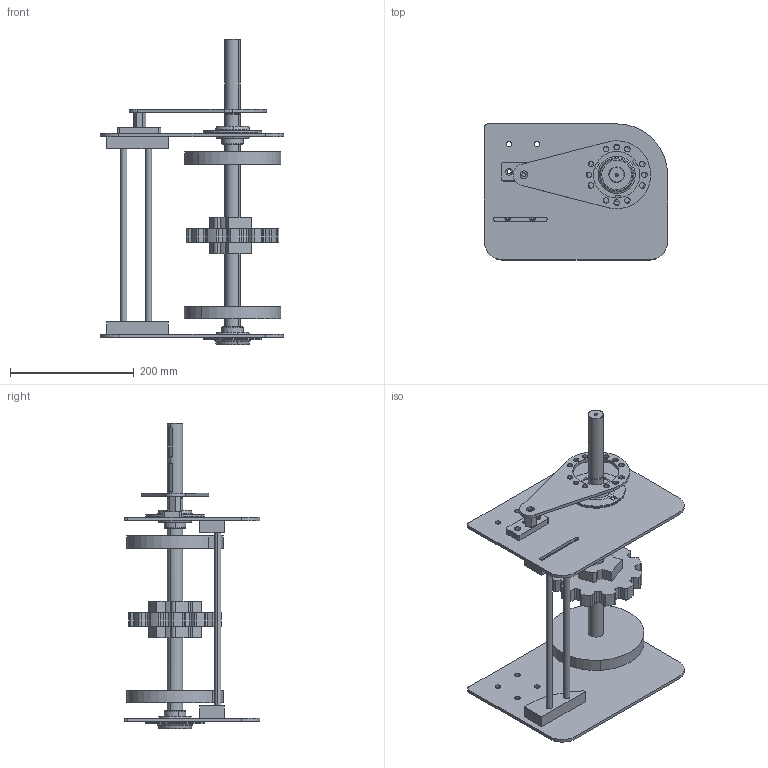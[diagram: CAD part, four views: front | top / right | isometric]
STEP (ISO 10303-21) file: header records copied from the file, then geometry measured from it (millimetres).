
FILE_DESCRIPTION (( 'STEP AP203' ), '1' );
FILE_NAME ('2000.1200.163.STEP', '2013-01-29T14:38:50', ( 'Alusic' ), ( 'Alusic' ), 'SwSTEP 2.0', 'SolidWorks 2011', '' );
FILE_SCHEMA (( 'CONFIG_CONTROL_DESIGN' ));
Length unit declared in the file: millimetre
Products named in the file (11): 2000.1200.163; 084.808.005-1; 084.802.027; 2000.001.013; 2000.1200.104; 2000.001.101; 2000.1200.102; 2000.001.015; 2000.001.014; RUOTE DI TRAINO NS882_NS882T12R25; SBPF 205
Assembly tree (15 placements, depth 2):
  2000.1200.163
    2000.001.013  x2
    2000.001.015  x2
    SBPF 205  x2
    2000.001.014  x2
    084.802.027
    2000.1200.102
    084.808.005-1
    RUOTE DI TRAINO NS882_NS882T12R25
    2000.1200.104  x2
    2000.001.101
Bounding box: 296.5 x 220 x 494.5 mm (x, y, z)
Volume: 2369704.8 mm3; surface area: 605999.4 mm2
Topology: 19 solids, 19 shells, 510 faces, 1363 edges, 884 vertices
Faces by surface type: cylinder 242, plane 194, cone 38, sphere 20, torus 16
Entity records: 13802 total; most frequent: CARTESIAN_POINT 2529, DIRECTION 2201, ORIENTED_EDGE 2012, EDGE_CURVE 1006, AXIS2_PLACEMENT_3D 840, VERTEX_POINT 660, VECTOR 521, LINE 521
